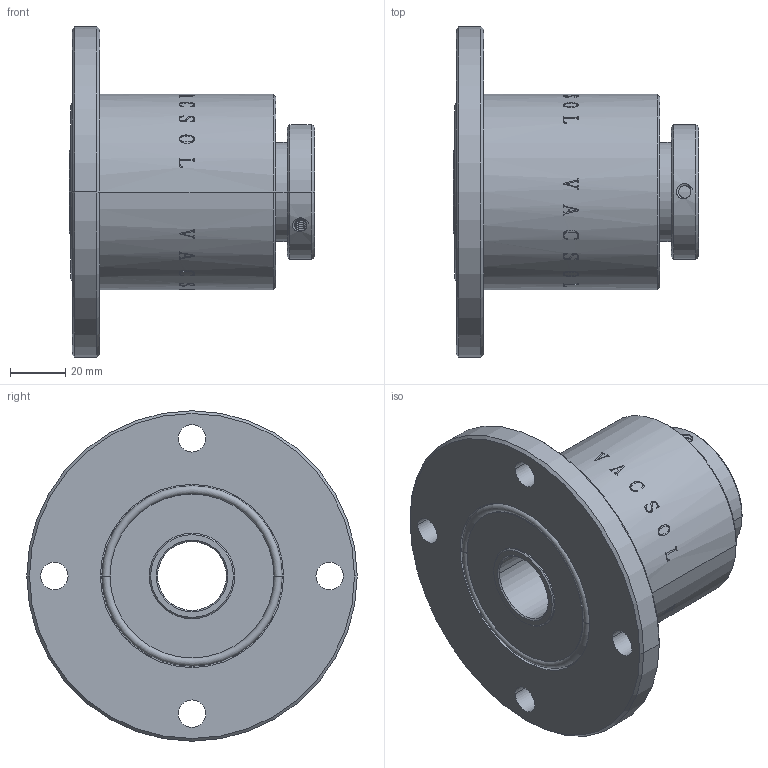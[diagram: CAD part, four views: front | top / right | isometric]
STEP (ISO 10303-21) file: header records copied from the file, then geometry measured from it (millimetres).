
FILE_DESCRIPTION (( 'STEP AP214' ), '1' );
FILE_NAME ('m25.STEP', '2010-08-26T12:30:35', ( 'user' ), ( '' ), 'SwSTEP 2.0', 'SolidWorks 2007', '' );
FILE_SCHEMA (( 'AUTOMOTIVE_DESIGN' ));
Length unit declared in the file: millimetre
Products named in the file (1): m25
Bounding box: 89 x 120 x 120 mm (x, y, z)
Volume: 341265.1 mm3; surface area: 55593.2 mm2
Topology: 2 solids, 2 shells, 432 faces, 1170 edges, 772 vertices
Faces by surface type: bspline 264, cylinder 86, plane 58, cone 20, torus 4
Entity records: 48517 total; most frequent: CARTESIAN_POINT 36551, ORIENTED_EDGE 2340, EDGE_CURVE 1170, B_SPLINE_CURVE_WITH_KNOTS 820, VERTEX_POINT 772, DIRECTION 750, EDGE_LOOP 480, FACE_OUTER_BOUND 432
